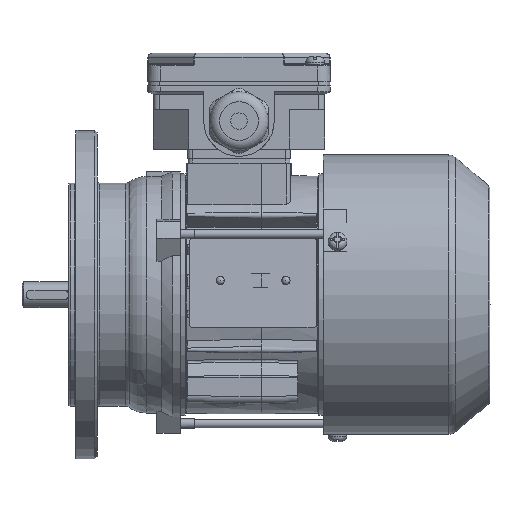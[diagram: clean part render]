
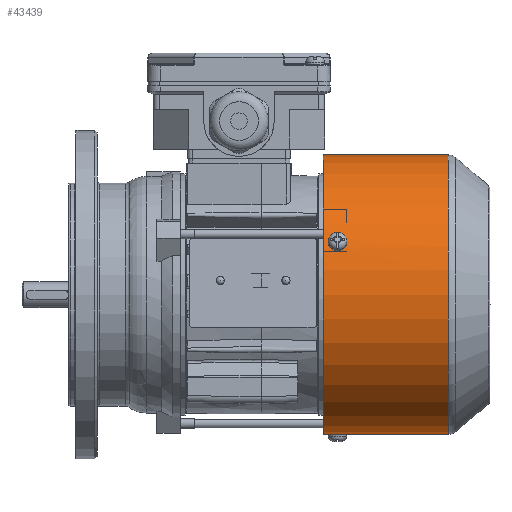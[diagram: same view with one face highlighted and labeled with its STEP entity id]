
A CAD part, front view. The second image highlights one B-rep face of the part: STEP entity #43439.
In plain terms, the highlighted cylindrical face has radius 59.6 mm (diameter 119.2 mm), a full revolution.
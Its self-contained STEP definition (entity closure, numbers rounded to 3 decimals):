
#751=B_SPLINE_CURVE_WITH_KNOTS('',3,(#64852,#64853,#64854,#64855,#64856,
#64857,#64858),.UNSPECIFIED.,.F.,.F.,(4,1,1,1,4),(0.,0.002,
0.004,0.006,0.008),
 .UNSPECIFIED.);
#753=B_SPLINE_CURVE_WITH_KNOTS('',3,(#64876,#64877,#64878,#64879,#64880,
#64881,#64882),.UNSPECIFIED.,.F.,.F.,(4,1,1,1,4),(0.,
0.002,0.004,0.006,0.008),
 .UNSPECIFIED.);
#755=B_SPLINE_CURVE_WITH_KNOTS('',3,(#64903,#64904,#64905,#64906,#64907,
#64908,#64909),.UNSPECIFIED.,.F.,.F.,(4,1,1,1,4),(0.,0.002,
0.004,0.006,0.008),
 .UNSPECIFIED.);
#757=B_SPLINE_CURVE_WITH_KNOTS('',3,(#64927,#64928,#64929,#64930,#64931,
#64932,#64933),.UNSPECIFIED.,.F.,.F.,(4,1,1,1,4),(0.,0.002,
0.004,0.006,0.008),
 .UNSPECIFIED.);
#758=B_SPLINE_CURVE_WITH_KNOTS('',3,(#64939,#64940,#64941,#64942,#64943,
#64944,#64945),.UNSPECIFIED.,.F.,.F.,(4,1,1,1,4),(0.,
0.002,0.004,0.006,0.007),
 .UNSPECIFIED.);
#759=B_SPLINE_CURVE_WITH_KNOTS('',3,(#64948,#64949,#64950,#64951,#64952,
#64953,#64954),.UNSPECIFIED.,.F.,.F.,(4,1,1,1,4),(0.,
0.002,0.004,0.006,0.007),
 .UNSPECIFIED.);
#2448=CIRCLE('',#45054,59.6);
#3003=CIRCLE('',#46223,59.6);
#3005=CIRCLE('',#46227,59.6);
#3006=CIRCLE('',#46229,59.6);
#3008=CIRCLE('',#46233,59.6);
#3010=CIRCLE('',#46238,59.6);
#9854=ORIENTED_EDGE('',*,*,#16012,.T.);
#9855=ORIENTED_EDGE('',*,*,#16009,.T.);
#9856=ORIENTED_EDGE('',*,*,#16017,.T.);
#9857=ORIENTED_EDGE('',*,*,#16015,.T.);
#9858=ORIENTED_EDGE('',*,*,#16018,.F.);
#9859=ORIENTED_EDGE('',*,*,#16019,.F.);
#9860=ORIENTED_EDGE('',*,*,#15999,.T.);
#9861=ORIENTED_EDGE('',*,*,#15996,.T.);
#9862=ORIENTED_EDGE('',*,*,#16004,.T.);
#9863=ORIENTED_EDGE('',*,*,#16002,.T.);
#9864=ORIENTED_EDGE('',*,*,#14393,.F.);
#9865=ORIENTED_EDGE('',*,*,#16005,.T.);
#14393=EDGE_CURVE('',#18503,#18503,#2448,.T.);
#15996=EDGE_CURVE('',#19598,#19601,#751,.T.);
#15999=EDGE_CURVE('',#19602,#19598,#3003,.F.);
#16002=EDGE_CURVE('',#19604,#19602,#753,.T.);
#16004=EDGE_CURVE('',#19601,#19604,#3005,.F.);
#16005=EDGE_CURVE('',#19606,#19606,#3006,.F.);
#16009=EDGE_CURVE('',#19607,#19610,#755,.T.);
#16012=EDGE_CURVE('',#19611,#19607,#3008,.F.);
#16015=EDGE_CURVE('',#19613,#19611,#757,.T.);
#16017=EDGE_CURVE('',#19610,#19613,#3010,.F.);
#16018=EDGE_CURVE('',#19615,#19616,#758,.T.);
#16019=EDGE_CURVE('',#19616,#19615,#759,.T.);
#18503=VERTEX_POINT('',#61205);
#19598=VERTEX_POINT('',#64840);
#19601=VERTEX_POINT('',#64851);
#19602=VERTEX_POINT('',#64861);
#19604=VERTEX_POINT('',#64867);
#19606=VERTEX_POINT('',#64888);
#19607=VERTEX_POINT('',#64891);
#19610=VERTEX_POINT('',#64902);
#19611=VERTEX_POINT('',#64912);
#19613=VERTEX_POINT('',#64918);
#19615=VERTEX_POINT('',#64946);
#19616=VERTEX_POINT('',#64947);
#26671=EDGE_LOOP('',(#9854,#9855,#9856,#9857));
#26672=EDGE_LOOP('',(#9858,#9859));
#26673=EDGE_LOOP('',(#9860,#9861,#9862,#9863));
#26674=EDGE_LOOP('',(#9864));
#26675=EDGE_LOOP('',(#9865));
#28798=FACE_BOUND('',#26671,.T.);
#28799=FACE_BOUND('',#26672,.T.);
#28800=FACE_BOUND('',#26673,.T.);
#28801=FACE_BOUND('',#26674,.T.);
#28802=FACE_BOUND('',#26675,.T.);
#29821=CYLINDRICAL_SURFACE('',#46239,59.6);
#43439=ADVANCED_FACE('',(#28798,#28799,#28800,#28801,#28802),#29821,.T.);
#45054=AXIS2_PLACEMENT_3D('',#61204,#49954,#49955);
#46223=AXIS2_PLACEMENT_3D('',#64864,#53233,#53234);
#46227=AXIS2_PLACEMENT_3D('',#64885,#53242,#53243);
#46229=AXIS2_PLACEMENT_3D('',#64887,#53246,#53247);
#46233=AXIS2_PLACEMENT_3D('',#64915,#53257,#53258);
#46238=AXIS2_PLACEMENT_3D('',#64937,#53268,#53269);
#46239=AXIS2_PLACEMENT_3D('',#64938,#53270,#53271);
#49954=DIRECTION('',(-1.,0.,0.));
#49955=DIRECTION('',(0.,0.,1.));
#53233=DIRECTION('',(-1.,0.,0.));
#53234=DIRECTION('',(0.,0.866,-0.5));
#53242=DIRECTION('',(1.,0.,0.));
#53243=DIRECTION('',(0.,-0.866,0.5));
#53246=DIRECTION('',(1.,0.,0.));
#53247=DIRECTION('',(0.,0.,-1.));
#53257=DIRECTION('',(-1.,0.,0.));
#53258=DIRECTION('',(0.,0.,1.));
#53268=DIRECTION('',(1.,0.,0.));
#53269=DIRECTION('',(0.,0.,-1.));
#53270=DIRECTION('',(-1.,0.,0.));
#53271=DIRECTION('',(0.,0.,1.));
#61204=CARTESIAN_POINT('',(26.5,0.,0.));
#61205=CARTESIAN_POINT('',(26.5,0.,59.6));
#64840=CARTESIAN_POINT('',(35.,46.437,37.36));
#64851=CARTESIAN_POINT('',(30.,46.437,37.36));
#64852=CARTESIAN_POINT('',(35.,46.437,37.36));
#64853=CARTESIAN_POINT('',(35.,46.023,37.874));
#64854=CARTESIAN_POINT('',(34.458,45.191,38.867));
#64855=CARTESIAN_POINT('',(32.502,44.648,39.479));
#64856=CARTESIAN_POINT('',(30.542,45.19,38.869));
#64857=CARTESIAN_POINT('',(30.,46.023,37.874));
#64858=CARTESIAN_POINT('',(30.,46.437,37.36));
#64861=CARTESIAN_POINT('',(35.,47.484,36.02));
#64864=CARTESIAN_POINT('',(35.,0.,0.));
#64867=CARTESIAN_POINT('',(30.,47.484,36.02));
#64876=CARTESIAN_POINT('',(30.,47.484,36.02));
#64877=CARTESIAN_POINT('',(30.,47.883,35.493));
#64878=CARTESIAN_POINT('',(30.542,48.645,34.446));
#64879=CARTESIAN_POINT('',(32.498,49.108,33.771));
#64880=CARTESIAN_POINT('',(34.458,48.646,34.444));
#64881=CARTESIAN_POINT('',(35.,47.883,35.493));
#64882=CARTESIAN_POINT('',(35.,47.484,36.02));
#64885=CARTESIAN_POINT('',(30.,0.,0.));
#64887=CARTESIAN_POINT('',(79.809,0.,0.));
#64888=CARTESIAN_POINT('',(79.809,0.,-59.6));
#64891=CARTESIAN_POINT('',(35.,-55.573,21.536));
#64902=CARTESIAN_POINT('',(30.,-55.573,21.536));
#64903=CARTESIAN_POINT('',(35.,-55.573,21.536));
#64904=CARTESIAN_POINT('',(35.,-55.812,20.92));
#64905=CARTESIAN_POINT('',(34.458,-56.255,19.703));
#64906=CARTESIAN_POINT('',(32.502,-56.514,18.927));
#64907=CARTESIAN_POINT('',(30.542,-56.256,19.701));
#64908=CARTESIAN_POINT('',(30.,-55.812,20.92));
#64909=CARTESIAN_POINT('',(30.,-55.573,21.536));
#64912=CARTESIAN_POINT('',(35.,-54.936,23.112));
#64915=CARTESIAN_POINT('',(35.,0.,0.));
#64918=CARTESIAN_POINT('',(30.,-54.936,23.112));
#64927=CARTESIAN_POINT('',(30.,-54.936,23.112));
#64928=CARTESIAN_POINT('',(30.,-54.68,23.721));
#64929=CARTESIAN_POINT('',(30.542,-54.154,24.905));
#64930=CARTESIAN_POINT('',(32.498,-53.8,25.643));
#64931=CARTESIAN_POINT('',(34.458,-54.153,24.907));
#64932=CARTESIAN_POINT('',(35.,-54.68,23.721));
#64933=CARTESIAN_POINT('',(35.,-54.936,23.112));
#64937=CARTESIAN_POINT('',(30.,0.,0.));
#64938=CARTESIAN_POINT('',(-33.5,0.,0.));
#64939=CARTESIAN_POINT('',(35.,8.295,-59.02));
#64940=CARTESIAN_POINT('',(34.937,7.681,-59.106));
#64941=CARTESIAN_POINT('',(34.356,6.499,-59.249));
#64942=CARTESIAN_POINT('',(32.502,5.777,-59.318));
#64943=CARTESIAN_POINT('',(30.649,6.493,-59.25));
#64944=CARTESIAN_POINT('',(30.063,7.681,-59.106));
#64945=CARTESIAN_POINT('',(30.,8.295,-59.02));
#64946=CARTESIAN_POINT('',(35.,8.295,-59.02));
#64947=CARTESIAN_POINT('',(30.,8.295,-59.02));
#64948=CARTESIAN_POINT('',(30.,8.295,-59.02));
#64949=CARTESIAN_POINT('',(30.063,8.908,-58.934));
#64950=CARTESIAN_POINT('',(30.644,10.084,-58.746));
#64951=CARTESIAN_POINT('',(32.498,10.797,-58.613));
#64952=CARTESIAN_POINT('',(34.351,10.09,-58.745));
#64953=CARTESIAN_POINT('',(34.937,8.908,-58.934));
#64954=CARTESIAN_POINT('',(35.,8.295,-59.02));
